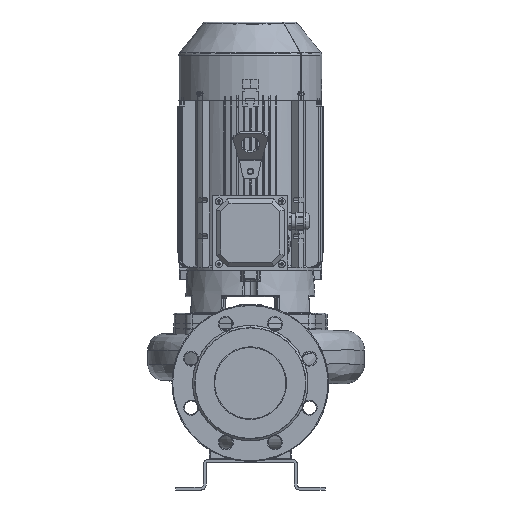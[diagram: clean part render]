
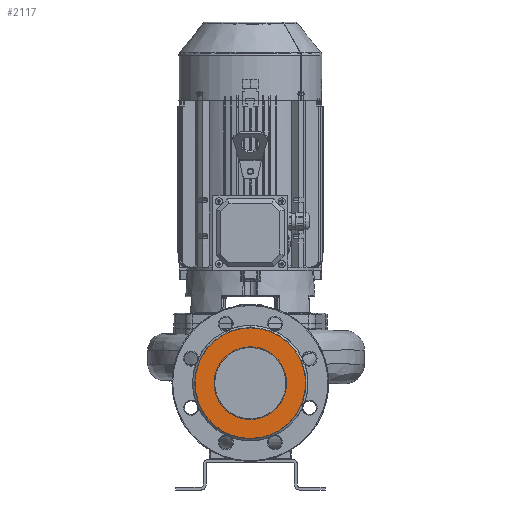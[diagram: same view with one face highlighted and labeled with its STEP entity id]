
A CAD part, front view. The second image highlights one B-rep face of the part: STEP entity #2117.
In plain terms, the highlighted planar face has unit normal (0, -1, 0) as drawn and (0, 1, 0) by its records, which use the part's own axes.
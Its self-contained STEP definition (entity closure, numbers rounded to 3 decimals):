
#2117=ADVANCED_FACE('',(#4541,#4542),#4543,.T.);
#2513=EDGE_CURVE('',#5214,#5215,#5216,.T.);
#2575=EDGE_CURVE('',#5326,#5327,#5328,.T.);
#2771=EDGE_CURVE('',#5327,#5326,#5615,.T.);
#2847=EDGE_CURVE('',#5215,#5214,#5701,.T.);
#4541=FACE_BOUND('',#11229,.T.);
#4542=FACE_OUTER_BOUND('',#11230,.T.);
#4543=PLANE('',#11231);
#5214=VERTEX_POINT('',#14504);
#5215=VERTEX_POINT('',#14505);
#5216=CIRCLE('',#14506,78.0);
#5326=VERTEX_POINT('',#14684);
#5327=VERTEX_POINT('',#14685);
#5328=CIRCLE('',#14686,50.0);
#5615=CIRCLE('',#15189,50.0);
#5701=CIRCLE('',#15370,78.0);
#11229=EDGE_LOOP('',(#23629,#23630));
#11230=EDGE_LOOP('',(#23631,#23632));
#11231=AXIS2_PLACEMENT_3D('',#23633,#23634,#23635);
#14504=CARTESIAN_POINT('',(0.,225.0,-114.5));
#14505=CARTESIAN_POINT('',(0.,225.0,41.5));
#14506=AXIS2_PLACEMENT_3D('',#26354,#26355,#26356);
#14684=CARTESIAN_POINT('',(19.004,225.0,-82.748));
#14685=CARTESIAN_POINT('',(-19.004,225.0,9.748));
#14686=AXIS2_PLACEMENT_3D('',#26433,#26434,#26435);
#15189=AXIS2_PLACEMENT_3D('',#26683,#26684,#26685);
#15370=AXIS2_PLACEMENT_3D('',#26780,#26781,#26782);
#23629=ORIENTED_EDGE('',*,*,#2575,.T.);
#23630=ORIENTED_EDGE('',*,*,#2771,.T.);
#23631=ORIENTED_EDGE('',*,*,#2513,.F.);
#23632=ORIENTED_EDGE('',*,*,#2847,.F.);
#23633=CARTESIAN_POINT('',(53.194,225.0,-4.65));
#23634=DIRECTION('',(0.0,1.0,0.0));
#23635=DIRECTION('',(0.0,0.0,1.0));
#26354=CARTESIAN_POINT('',(0.,225.0,-36.5));
#26355=DIRECTION('',(0.0,-1.0,0.0));
#26356=DIRECTION('',(0.,0.0,-1.0));
#26433=CARTESIAN_POINT('',(0.0,225.0,-36.5));
#26434=DIRECTION('',(0.0,-1.0,0.0));
#26435=DIRECTION('',(0.38,0.0,-0.925));
#26683=CARTESIAN_POINT('',(0.0,225.0,-36.5));
#26684=DIRECTION('',(0.0,-1.0,0.0));
#26685=DIRECTION('',(0.38,0.0,-0.925));
#26780=CARTESIAN_POINT('',(0.,225.0,-36.5));
#26781=DIRECTION('',(0.0,-1.0,0.0));
#26782=DIRECTION('',(0.,0.0,-1.0));
